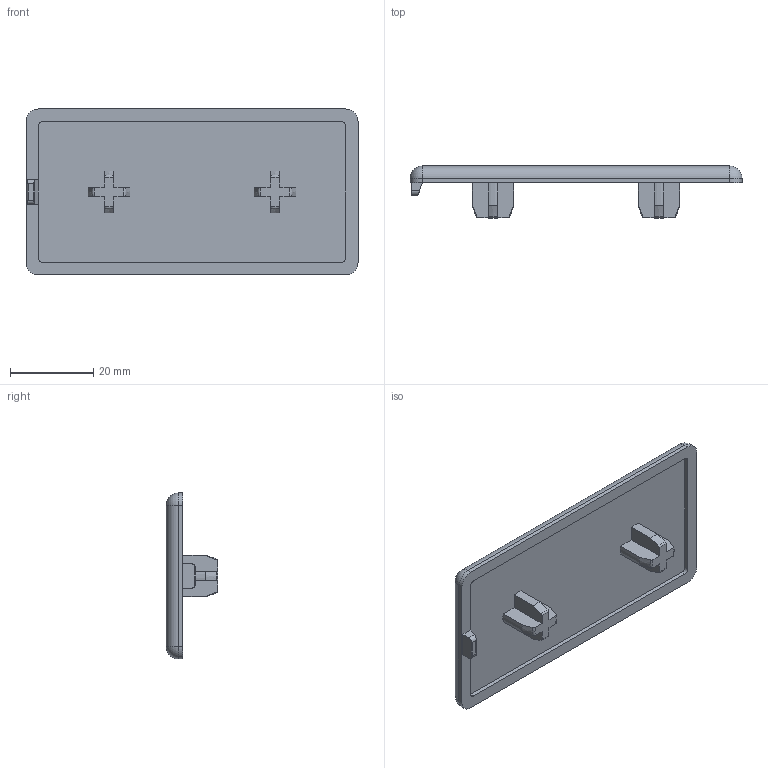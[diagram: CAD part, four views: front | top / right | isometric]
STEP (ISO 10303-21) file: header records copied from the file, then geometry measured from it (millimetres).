
FILE_DESCRIPTION(/* description */ ('STEP AP203'),/* implementation_level */ '2;1');
FILE_NAME(/* name */ '091193S02',/* time_stamp */ '2023-06-28T12:16:03+02:00',/* author */ ('License CC BY-ND 4.0'),/* organization */ ('CADENAS'),/* preprocessor_version */ 'ST-DEVELOPER v19.3',/* originating_system */ 'PARTsolutions',/* authorisation */ ' ');
FILE_SCHEMA (('CONFIG_CONTROL_DESIGN','AP242_MANAGED_MODEL_BASED_3D_ENGINEERING_MIM_LF { 1 0 10303 442 3 1 4 }'));
Length unit declared in the file: millimetre
Products named in the file (1): 091193S02
Bounding box: 80 x 12.5 x 40 mm (x, y, z)
Volume: 10603.7 mm3; surface area: 7974.7 mm2
Topology: 1 solids, 1 shells, 78 faces, 209 edges, 132 vertices
Faces by surface type: plane 34, cylinder 24, torus 8, cone 8, sphere 4
Entity records: 2463 total; most frequent: CARTESIAN_POINT 524, ORIENTED_EDGE 410, DIRECTION 387, EDGE_CURVE 205, AXIS2_PLACEMENT_3D 139, VERTEX_POINT 132, LINE 109, VECTOR 109
